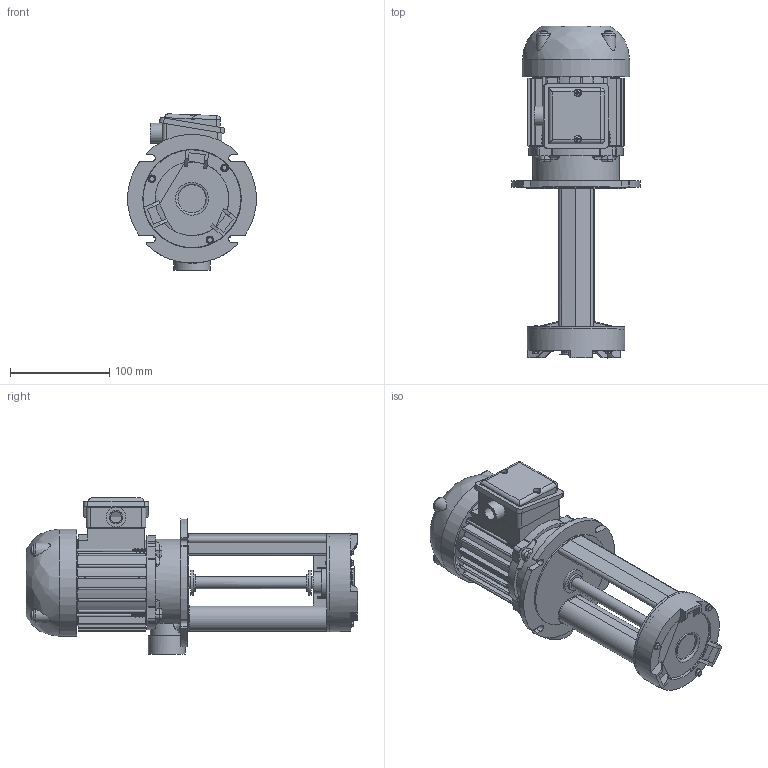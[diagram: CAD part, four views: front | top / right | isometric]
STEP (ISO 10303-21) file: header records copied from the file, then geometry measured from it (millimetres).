
FILE_DESCRIPTION(/* description */ (''),/* implementation_level */ '2;1');
FILE_NAME(/* name */ 'P:\3D PER CLIENTI\POMPE\SPV\YT56SVB++170N.stp',/* time_stamp */ '2018-11-09T15:59:37+01:00',/* author */ ('vgiaretta'),/* organization */ (''),/* preprocessor_version */ 'ST-DEVELOPER v17.2',/* originating_system */ 'Autodesk Inventor 2019',/* authorisation */ '');
FILE_SCHEMA (('AUTOMOTIVE_DESIGN { 1 0 10303 214 3 1 1 }'));
Products named in the file (1): YT56SVBAA170N_iLogic_Shrinkwrap
Bounding box: 129.52 x 334.79 x 157.58 mm (x, y, z)
Volume: 931120.4 mm3; surface area: 337045.6 mm2
Topology: 14 solids, 16 shells, 1446 faces, 3971 edges, 2614 vertices
Faces by surface type: plane 803, cylinder 409, bspline 106, cone 64, torus 42, sphere 22
Full cylindrical faces by diameter (mm): 1.1 x2, 2.56 x71, 3 x4, 3.5 x8, 3.8 x4, 4 x1, 4.5 x3, 4.58 x4, 5 x3, 6.5 x4, 7 x4, 7.5 x2, 7.6 x3, 7.9 x4, 8.5 x1, 8.6 x4, 11.3 x1, 11.5 x2, 11.95 x9, 12 x3, 12.004 x2, 13.376 x1, 14 x2, 14.4 x1, 15.77 x1, 16.16 x1, 17.4 x2, 20 x2, 20.16 x1, 22 x3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
Entity records: 58924 total; most frequent: CARTESIAN_POINT 20887, ORIENTED_EDGE 7942, DIRECTION 7209, EDGE_CURVE 3971, VERTEX_POINT 2625, AXIS2_PLACEMENT_3D 2595, LINE 2019, VECTOR 2019
